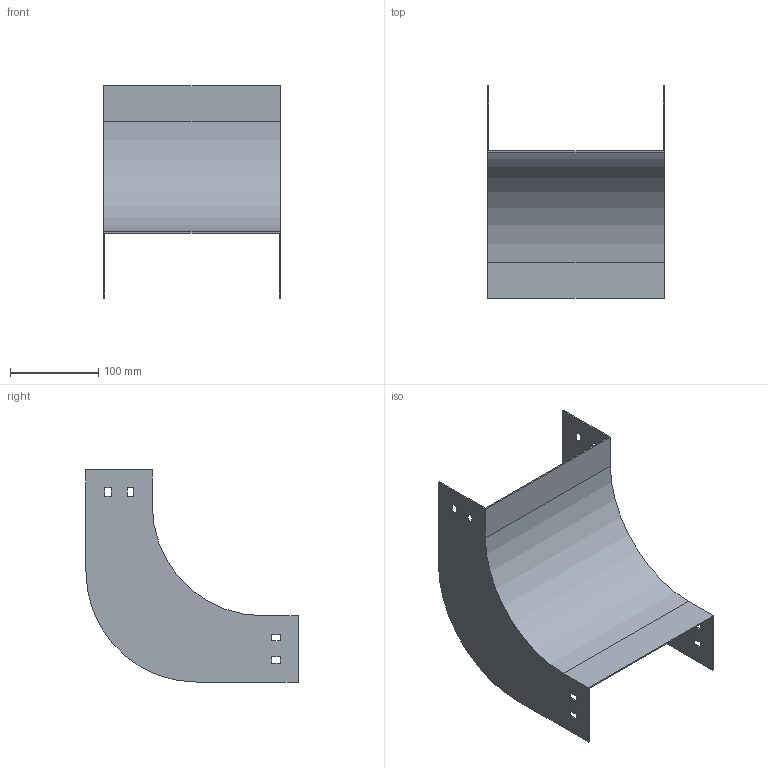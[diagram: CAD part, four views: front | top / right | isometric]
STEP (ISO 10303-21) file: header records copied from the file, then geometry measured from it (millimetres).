
FILE_DESCRIPTION (( 'STEP AP214' ), '1' );
FILE_NAME ('D9_207.step', '2025-07-16T09:08:42', ( '' ), ( '' ), 'SwSTEP 2.0', 'SolidWorks 2023', '' );
FILE_SCHEMA (( 'AUTOMOTIVE_DESIGN' ));
Length unit declared in the file: millimetre
Products named in the file (1): D9_207
Bounding box: 200 x 240 x 240 mm (x, y, z)
Volume: 172294.4 mm3; surface area: 232450.4 mm2
Topology: 1 solids, 1 shells, 50 faces, 144 edges, 96 vertices
Faces by surface type: plane 46, cylinder 4
Entity records: 1671 total; most frequent: CARTESIAN_POINT 291, ORIENTED_EDGE 288, DIRECTION 254, EDGE_CURVE 144, LINE 136, VECTOR 136, VERTEX_POINT 96, EDGE_LOOP 66
